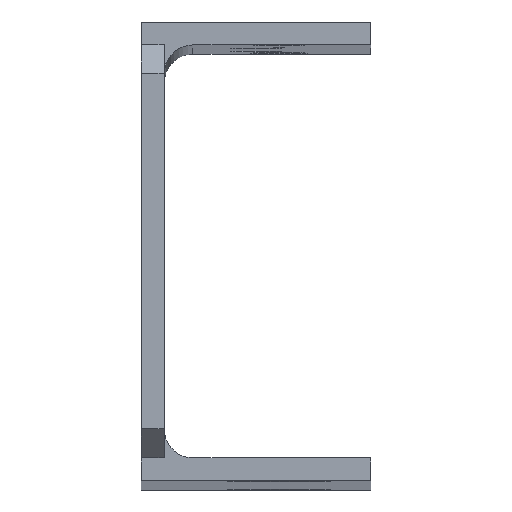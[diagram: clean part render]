
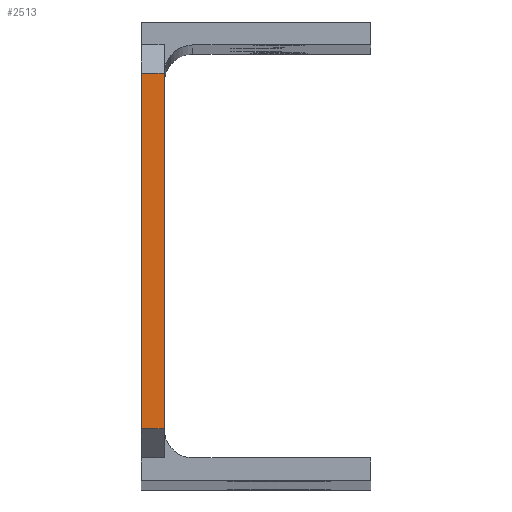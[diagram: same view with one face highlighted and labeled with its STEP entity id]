
A CAD part, top view. The second image highlights one B-rep face of the part: STEP entity #2513.
In plain terms, the highlighted planar face has unit normal (0, 0, 1).
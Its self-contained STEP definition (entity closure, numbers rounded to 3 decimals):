
#324 = VECTOR ( 'NONE', #415, 1000. ) ;
#415 = DIRECTION ( 'NONE',  ( -1., 0., 0. ) ) ;
#442 = VERTEX_POINT ( 'NONE', #1015 ) ;
#503 = VECTOR ( 'NONE', #595, 1000. ) ;
#595 = DIRECTION ( 'NONE',  ( 0., 1., 0. ) ) ;
#696 = VERTEX_POINT ( 'NONE', #1482 ) ;
#798 = LINE ( 'NONE', #1615, #503 ) ;
#801 = LINE ( 'NONE', #2023, #324 ) ;
#848 = VECTOR ( 'NONE', #1399, 1000. ) ;
#913 = AXIS2_PLACEMENT_3D ( 'NONE', #1756, #2577, #2248 ) ;
#1015 = CARTESIAN_POINT ( 'NONE',  ( 0., 71., 992. ) ) ;
#1025 = ORIENTED_EDGE ( 'NONE', *, *, #2226, .T. ) ;
#1151 = ORIENTED_EDGE ( 'NONE', *, *, #2623, .T. ) ;
#1251 = EDGE_LOOP ( 'NONE', ( #1565, #1733, #1151, #1025 ) ) ;
#1342 = EDGE_CURVE ( 'NONE', #1703, #696, #1551, .T. ) ;
#1347 = DIRECTION ( 'NONE',  ( 1., 0., 0. ) ) ;
#1399 = DIRECTION ( 'NONE',  ( 0., 1., 0. ) ) ;
#1482 = CARTESIAN_POINT ( 'NONE',  ( 4., 9., 992. ) ) ;
#1551 = LINE ( 'NONE', #2365, #2193 ) ;
#1565 = ORIENTED_EDGE ( 'NONE', *, *, #2640, .F. ) ;
#1615 = CARTESIAN_POINT ( 'NONE',  ( 0., 0., 992. ) ) ;
#1703 = VERTEX_POINT ( 'NONE', #2435 ) ;
#1733 = ORIENTED_EDGE ( 'NONE', *, *, #1342, .T. ) ;
#1756 = CARTESIAN_POINT ( 'NONE',  ( 0., 0., 992. ) ) ;
#1800 = LINE ( 'NONE', #2619, #848 ) ;
#1964 = PLANE ( 'NONE',  #913 ) ;
#2023 = CARTESIAN_POINT ( 'NONE',  ( 0., 71., 992. ) ) ;
#2091 = VERTEX_POINT ( 'NONE', #2389 ) ;
#2166 = FACE_OUTER_BOUND ( 'NONE', #1251, .T. ) ;
#2193 = VECTOR ( 'NONE', #1347, 1000. ) ;
#2226 = EDGE_CURVE ( 'NONE', #2091, #442, #801, .T. ) ;
#2248 = DIRECTION ( 'NONE',  ( 1., 0., 0. ) ) ;
#2365 = CARTESIAN_POINT ( 'NONE',  ( 4., 9., 992. ) ) ;
#2389 = CARTESIAN_POINT ( 'NONE',  ( 4., 71., 992. ) ) ;
#2435 = CARTESIAN_POINT ( 'NONE',  ( 0., 9., 992. ) ) ;
#2513 = ADVANCED_FACE ( 'NONE', ( #2166 ), #1964, .T. ) ;
#2577 = DIRECTION ( 'NONE',  ( 0., 0., 1. ) ) ;
#2619 = CARTESIAN_POINT ( 'NONE',  ( 4., 0., 992. ) ) ;
#2623 = EDGE_CURVE ( 'NONE', #696, #2091, #1800, .T. ) ;
#2640 = EDGE_CURVE ( 'NONE', #1703, #442, #798, .T. ) ;
